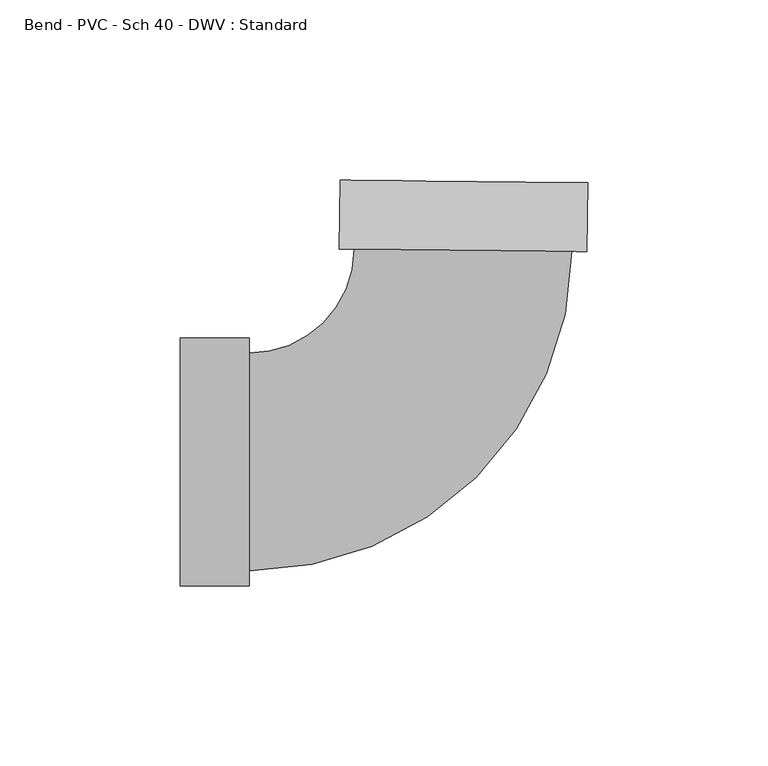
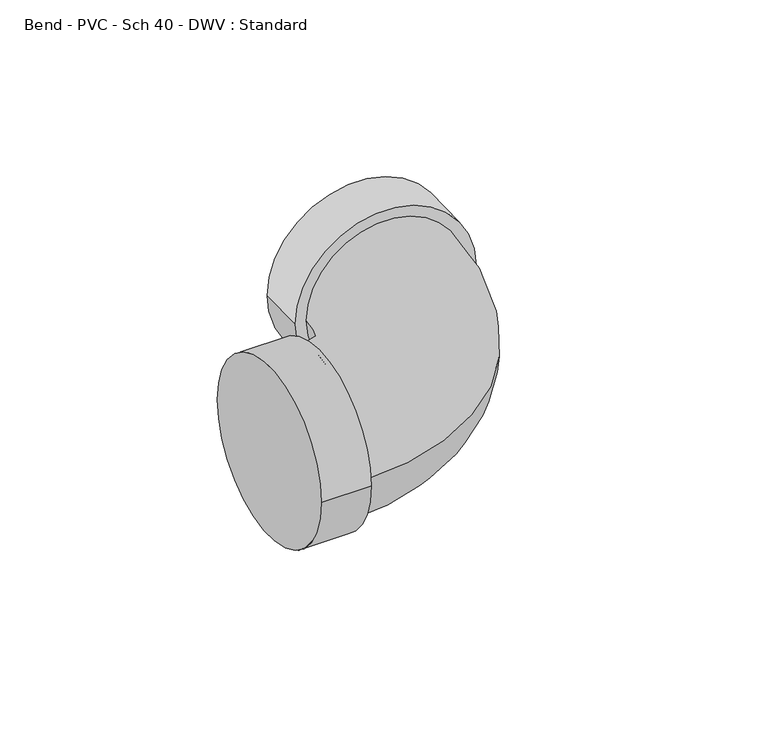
"""IFC4 building model written with IfcOpenShell, lengths in millimetres: pipe fitting geometry, Bend - PVC - Sch 40 - DWV : Standard."""

from ifc_helpers import new_model, si_unit, point, frame, origin, place, context, project, spatial, circle_curve, ellipse_curve, trimmed, source, transform, mapped, element, save
from ifc_brep_helpers import plane_surface, cylinder_surface, revolved_surface, advanced_brep


def bend_pvc_sch_40_dwv_standard_6f2b9464(model_context):
    return source(origin(), model_context, "Body", "AdvancedBrep", [
        advanced_brep(
        [(-77.8002, -34.3154, 0.0), (-77.8002, 34.3154, 0.0), (-58.7502, -34.3154, 0.0), (-58.7502, 34.3154, 0.0), (-58.7502, -30.1625, 0.0), (-58.7502, 30.1625, 0.0), (-29.5489157, 59.0611885, 0.0), (30.7728118, 58.4328372, 0.0), (34.9254865, 58.3895802, 0.0), (-33.7015904, 59.1044455, 0.0), (35.1239132, 77.4385467, 0.0), (-33.5031636, 78.1534121, 0.0)],
        [
            (0, 1, circle_curve(frame((-77.8002, 0.0, 0.0), z_axis=(-1.0, 0.0, 0.0), x_axis=(0.0, 1.0, 0.0)), 34.3154)),
            (1, 0, circle_curve(frame((-77.8002, 0.0, 0.0), z_axis=(-1.0, 0.0, 0.0), x_axis=(0.0, 1.0, 0.0)), 34.3154)),
            (2, 3, circle_curve(frame((-58.7502, 0.0, 0.0), z_axis=(1.0, 0.0, 0.0), x_axis=(0.0, 1.0, 0.0)), 34.3154)),
            (3, 2, circle_curve(frame((-58.7502, 0.0, 0.0), z_axis=(1.0, 0.0, 0.0), x_axis=(0.0, 1.0, 0.0)), 34.3154)),
            (4, 5, circle_curve(frame((-58.7502, 0.0, 0.0), z_axis=(-1.0, 0.0, 0.0), x_axis=(0.0, 1.0, 0.0)), 30.1625)),
            (5, 4, circle_curve(frame((-58.7502, 0.0, 0.0), z_axis=(-1.0, 0.0, 0.0), x_axis=(0.0, 1.0, 0.0)), 30.1625)),
            (0, 2),
            (3, 1),
            (6, 5, circle_curve(frame((-58.7502, 59.3653686, 0.0), z_axis=(0.0, 0.0, -1.0), x_axis=(0.0, -1.0, 0.0)), 29.2028686)),
            (4, 7, circle_curve(frame((-58.7502, 59.3653686, 0.0), z_axis=(0.0, 0.0, 1.0), x_axis=(0.0, -1.0, 0.0)), 89.5278686)),
            (7, 6, circle_curve(frame((0.6119481, 58.7470129, 0.0), z_axis=(-0.010416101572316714, -0.9999457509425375, 0.0), x_axis=(-0.9999457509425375, 0.010416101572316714, 0.0)), 30.1625)),
            (6, 7, circle_curve(frame((0.6119481, 58.7470129, 0.0), z_axis=(-0.010416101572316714, -0.9999457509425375, 0.0), x_axis=(-0.9999457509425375, 0.010416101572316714, 0.0)), 30.1625)),
            (8, 9, circle_curve(frame((0.6119481, 58.7470129, 0.0), z_axis=(-0.010416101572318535, -0.9999457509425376, 0.0), x_axis=(-0.9999457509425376, 0.010416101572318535, 0.0)), 34.3154)),
            (9, 8, circle_curve(frame((0.6119481, 58.7470129, 0.0), z_axis=(-0.010416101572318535, -0.9999457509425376, 0.0), x_axis=(-0.9999457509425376, 0.010416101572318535, 0.0)), 34.3154)),
            (10, 11, circle_curve(frame((0.8103748, 77.7959794, 0.0), z_axis=(0.010416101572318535, 0.9999457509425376, 0.0), x_axis=(-0.9999457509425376, 0.010416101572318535, 0.0)), 34.3154)),
            (11, 10, circle_curve(frame((0.8103748, 77.7959794, 0.0), z_axis=(0.010416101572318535, 0.9999457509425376, 0.0), x_axis=(-0.9999457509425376, 0.010416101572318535, 0.0)), 34.3154)),
            (8, 10),
            (11, 9),
        ],
        [
            plane_surface(frame((-77.8002, 0.0, 0.0), z_axis=(-1.0, 0.0, 0.0), x_axis=(0.0, 0.0, 1.0))),
            plane_surface(frame((-58.7502, 0.0, 0.0), z_axis=(1.0, 0.0, 0.0), x_axis=(0.0, 0.0, 1.0))),
            cylinder_surface(frame((-77.8002, 0.0, 0.0), z_axis=(-1.0, 0.0, 0.0), x_axis=(0.0, 1.0, 0.0)), 34.3154),
            revolved_surface(trimmed(ellipse_curve(frame((-58.7502, 0.0, 0.0), z_axis=(-1.0, 0.0, 0.0), x_axis=(0.0, 1.0, 0.0)), 30.1625, 30.1625), [point((-58.7502, -30.1625, 0.0))], [point((-58.7502, 30.1625, 0.0))], True, "CARTESIAN"), (-58.7502, 59.3653686, 0.0), (0.0, 0.0, 1.0)),
            revolved_surface(trimmed(ellipse_curve(frame((-58.7502, 0.0, 0.0), z_axis=(-1.0, 0.0, 0.0), x_axis=(0.0, 1.0, 0.0)), 30.1625, 30.1625), [point((-58.7502, 30.1625, 0.0))], [point((-58.7502, -30.1625, 0.0))], True, "CARTESIAN"), (-58.7502, 59.3653686, 0.0), (0.0, 0.0, 1.0)),
            plane_surface(frame((0.6119481, 58.7470129, 0.0), z_axis=(-0.010416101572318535, -0.9999457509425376, 0.0), x_axis=(0.0, 0.0, 1.0))),
            plane_surface(frame((0.8103748, 77.7959794, 0.0), z_axis=(0.010416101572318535, 0.9999457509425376, 0.0), x_axis=(0.0, 0.0, 1.0))),
            cylinder_surface(frame((0.6119481, 58.7470129, 0.0), z_axis=(-0.010416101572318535, -0.9999457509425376, 0.0), x_axis=(-0.9999457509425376, 0.010416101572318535, 0.0)), 34.3154),
        ],
        [
            (0, [[1, 2]]),
            (1, [[3, 4], [5, 6]]),
            (2, [[-1, 7, -4, 8]]),
            (2, [[-2, -8, -3, -7]]),
            (3, [[9, -5, 10, 11]]),
            (4, [[-9, 12, -10, -6]]),
            (5, [[13, 14], [-11, -12]]),
            (6, [[15, 16]]),
            (7, [[-13, 17, -16, 18]]),
            (7, [[-14, -18, -15, -17]]),
        ],
    ),
    ])


if __name__ == "__main__":
    model = new_model("IFC4")
    model_context = context("Model", 3, world=origin())
    ifc_project = project(units=[si_unit("LENGTHUNIT", "METRE", prefix="MILLI")], contexts=[model_context])
    site = spatial("IfcSite", under=ifc_project)
    building = spatial("IfcBuilding", under=site)
    placement = place(None, origin())
    bend_pvc_sch_40_dwv_standard_shape = bend_pvc_sch_40_dwv_standard_6f2b9464(model_context)
    element("IfcPipeFitting", 1, ObjectType="Bend - PVC - Sch 40 - DWV : Standard", at=placement, inside=building, context=model_context, shape_type="MappedRepresentation", body=[
        mapped(bend_pvc_sch_40_dwv_standard_shape, transform((0.0, 0.0, 0.0), x_axis=(1.0, 0.0, 0.0), y_axis=(0.0, 1.0, 0.0), z_axis=(0.0, 0.0, 1.0))),
    ])
    save(model, "model.ifc")
